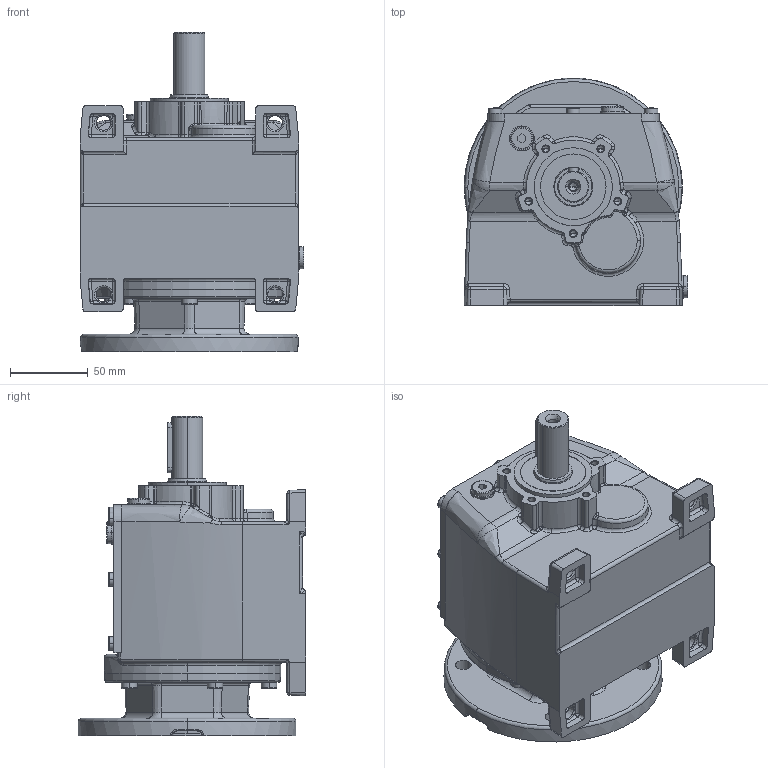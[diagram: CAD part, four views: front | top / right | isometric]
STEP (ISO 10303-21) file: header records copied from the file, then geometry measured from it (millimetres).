
FILE_DESCRIPTION (( 'STEP AP214' ), '1' );
FILE_NAME ('MTC22A-71-115.STEP', '2006-05-03T07:50:46', ( '' ), ( '' ), 'SwSTEP 2.0', 'SolidWorks 2004146', '' );
FILE_SCHEMA (( 'AUTOMOTIVE_DESIGN' ));
Length unit declared in the file: millimetre
Products named in the file (4): Skrin MTC2_A_MTC22_AP71; pøíruba d55 MRT60a_pøíruba 95-115-140; MTC22A-71-115; D6912_Šroub DIN 6912 - M6x20
Assembly tree (8 placements, depth 2):
  MTC22A-71-115
    D6912_Šroub DIN 6912 - M6x20  x6
    pøíruba d55 MRT60a_pøíruba 95-115-140
    Skrin MTC2_A_MTC22_AP71
Bounding box: 143.57 x 145.76 x 204.5 mm (x, y, z)
Volume: 1941645.5 mm3; surface area: 157636.7 mm2
Topology: 8 solids, 8 shells, 1424 faces, 3308 edges, 1918 vertices
Faces by surface type: plane 361, torus 347, cylinder 327, cone 209, bspline 154, sphere 26
Entity records: 124771 total; most frequent: CARTESIAN_POINT 93362, DIRECTION 6167, ORIENTED_EDGE 5860, EDGE_CURVE 2930, AXIS2_PLACEMENT_3D 2590, VERTEX_POINT 1760, CIRCLE 1494, EDGE_LOOP 1332
